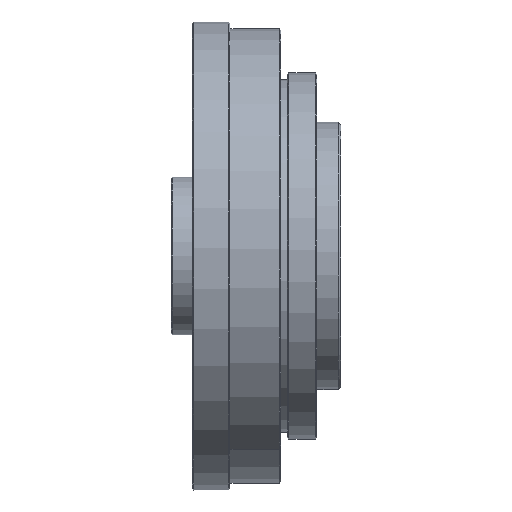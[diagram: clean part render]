
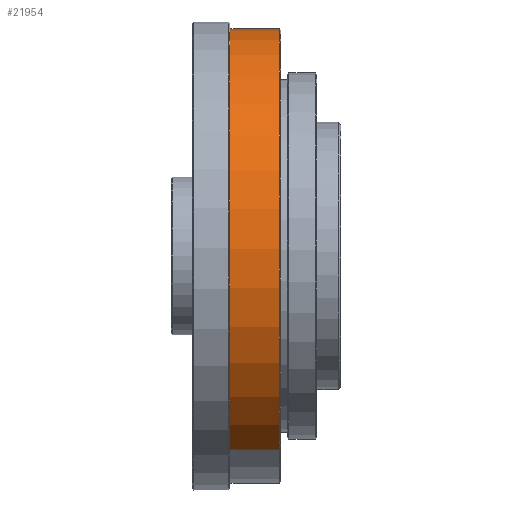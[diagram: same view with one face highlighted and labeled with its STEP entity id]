
A CAD part, front view. The second image highlights one B-rep face of the part: STEP entity #21954.
In plain terms, the highlighted cylindrical face has radius 85 mm (diameter 170 mm), a partial arc.
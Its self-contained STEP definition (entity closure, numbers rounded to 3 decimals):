
#373 = ORIENTED_EDGE ( 'NONE', *, *, #28543, .F. ) ;
#1871 = DIRECTION ( 'NONE',  ( 1., 0., 0. ) ) ;
#5120 = VECTOR ( 'NONE', #40795, 1000. ) ;
#6311 = VERTEX_POINT ( 'NONE', #56301 ) ;
#6658 = LINE ( 'NONE', #45662, #5120 ) ;
#15548 = ORIENTED_EDGE ( 'NONE', *, *, #27076, .T. ) ;
#16627 = DIRECTION ( 'NONE',  ( -1., 0., 0. ) ) ;
#17662 = AXIS2_PLACEMENT_3D ( 'NONE', #30731, #1871, #35553 ) ;
#20206 = VECTOR ( 'NONE', #56946, 1000. ) ;
#21954 = ADVANCED_FACE ( 'NONE', ( #41892 ), #53185, .T. ) ;
#23218 = EDGE_CURVE ( 'NONE', #62375, #36364, #62080, .T. ) ;
#24183 = DIRECTION ( 'NONE',  ( -1., 0., 0. ) ) ;
#25476 = EDGE_LOOP ( 'NONE', ( #373, #60898, #15548, #55085 ) ) ;
#26125 = DIRECTION ( 'NONE',  ( 0., 0., 1. ) ) ;
#27076 = EDGE_CURVE ( 'NONE', #6311, #62375, #6658, .T. ) ;
#28213 = CARTESIAN_POINT ( 'NONE',  ( 0., 0., -85. ) ) ;
#28543 = EDGE_CURVE ( 'NONE', #47725, #36364, #45793, .T. ) ;
#30731 = CARTESIAN_POINT ( 'NONE',  ( 0.5, 0., 0. ) ) ;
#34177 = AXIS2_PLACEMENT_3D ( 'NONE', #52953, #24183, #57773 ) ;
#34911 = CIRCLE ( 'NONE', #34177, 85. ) ;
#35553 = DIRECTION ( 'NONE',  ( 0., 0., -1. ) ) ;
#36364 = VERTEX_POINT ( 'NONE', #60615 ) ;
#38182 = CARTESIAN_POINT ( 'NONE',  ( 23.5, 0., -85. ) ) ;
#40664 = EDGE_CURVE ( 'NONE', #47725, #6311, #34911, .T. ) ;
#40795 = DIRECTION ( 'NONE',  ( -1., 0., 0. ) ) ;
#41892 = FACE_OUTER_BOUND ( 'NONE', #25476, .T. ) ;
#45662 = CARTESIAN_POINT ( 'NONE',  ( 0., 0., 85. ) ) ;
#45793 = LINE ( 'NONE', #28213, #20206 ) ;
#47725 = VERTEX_POINT ( 'NONE', #38182 ) ;
#52613 = AXIS2_PLACEMENT_3D ( 'NONE', #54839, #16627, #26125 ) ;
#52953 = CARTESIAN_POINT ( 'NONE',  ( 23.5, 0., 0. ) ) ;
#53185 = CYLINDRICAL_SURFACE ( 'NONE', #52613, 85. ) ;
#54839 = CARTESIAN_POINT ( 'NONE',  ( 0., 0., 0. ) ) ;
#55085 = ORIENTED_EDGE ( 'NONE', *, *, #23218, .T. ) ;
#56301 = CARTESIAN_POINT ( 'NONE',  ( 23.5, 0., 85. ) ) ;
#56946 = DIRECTION ( 'NONE',  ( -1., 0., 0. ) ) ;
#57773 = DIRECTION ( 'NONE',  ( 0., 0., 1. ) ) ;
#60615 = CARTESIAN_POINT ( 'NONE',  ( 0.5, 0., -85. ) ) ;
#60898 = ORIENTED_EDGE ( 'NONE', *, *, #40664, .T. ) ;
#61383 = CARTESIAN_POINT ( 'NONE',  ( 0.5, 0., 85. ) ) ;
#62080 = CIRCLE ( 'NONE', #17662, 85. ) ;
#62375 = VERTEX_POINT ( 'NONE', #61383 ) ;
